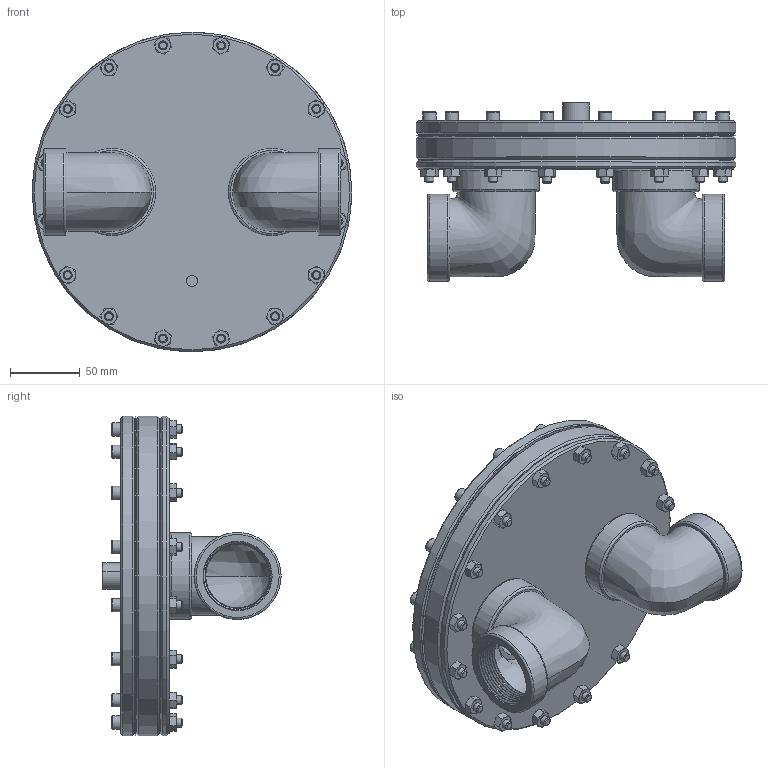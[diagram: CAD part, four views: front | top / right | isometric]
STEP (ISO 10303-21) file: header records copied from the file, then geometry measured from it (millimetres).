
FILE_DESCRIPTION(/* description */ (''),/* implementation_level */ '2;1');
FILE_NAME(/* name */ 'Z:\Models\NL_NLB Series\EB8NLB12\BD12SNx6D.stp',/* time_stamp */ '2016-11-02T13:09:26-04:00',/* author */ ('Owner'),/* organization */ (''),/* preprocessor_version */ 'ST-DEVELOPER v15.6',/* originating_system */ 'Autodesk Inventor 2015',/* authorisation */ '');
FILE_SCHEMA (('CONFIG_CONTROL_DESIGN'));
Length unit declared in the file: inch
Products named in the file (15): EB8NLBD12 RC SS LP; EB8NLBD12 Seat Plate SS TR External; EB8NLBD12 BP SubAssembly (METAL LP)_Welds; threaded pipe stub; EB8NLBD12 BC LP SS; 4452K418_TYPE 316 STAINLESS STL THREADED PIPE FITTING; EB8NLBD12 BP SubAssembly (METAL LP); -148; diaphragm; Upper O-Ring -170; -168; 4452k512 250 half coupling; ANSI B18.3 - 1_4-20 UNC - 1.75(31); ANSI B18.2.2 - 1_4 - 28(2); EB8NLBD12 Assembly
Bounding box: 228.6 x 127.41 x 228.6 mm (x, y, z)
Volume: 1175843.5 mm3; surface area: 504910.4 mm2
Topology: 47 solids, 47 shells, 888 faces, 2019 edges, 1252 vertices
Faces by surface type: cone 332, plane 325, cylinder 153, torus 56, bspline 22
Full cylindrical faces by diameter (mm): 1.778 x1, 5.359 x16, 6.35 x16, 6.528 x64, 7.874 x1, 9.525 x16, 19.812 x1, 40.894 x2, 48.26 x6, 62.23 x4, 64.11 x1, 71.374 x1, 181.381 x1, 188.493 x1, 194.056 x2, 201.143 x2, 228.6 x4
Entity records: 22832 total; most frequent: CARTESIAN_POINT 15999, DIRECTION 1457, ORIENTED_EDGE 1046, AXIS2_PLACEMENT_3D 666, EDGE_LOOP 569, EDGE_CURVE 523, VERTEX_POINT 396, CIRCLE 330
